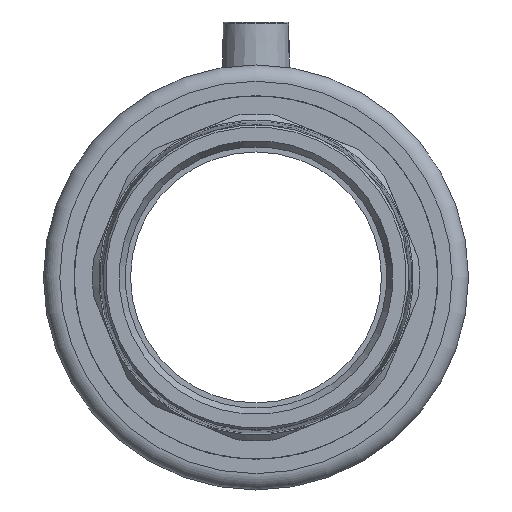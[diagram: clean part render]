
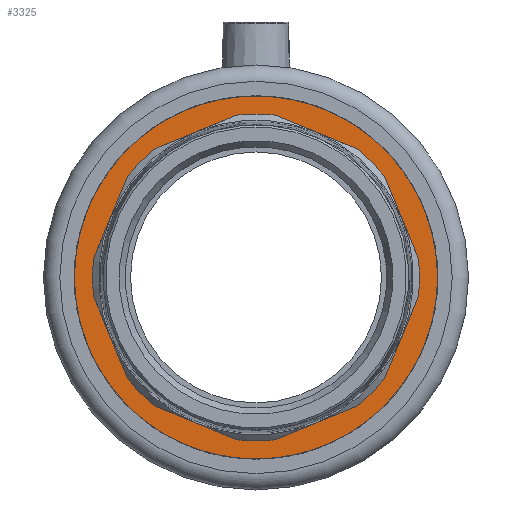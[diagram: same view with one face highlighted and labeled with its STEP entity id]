
A CAD part, left-side view. The second image highlights one B-rep face of the part: STEP entity #3325.
In plain terms, the highlighted planar face has unit normal (-1, 0, 0) as drawn and (0, 0, 1) by its records, which use the part's own axes.
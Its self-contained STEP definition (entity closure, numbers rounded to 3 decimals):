
#217=LINE('',#6724,#405);
#218=LINE('',#6725,#406);
#219=LINE('',#6729,#407);
#220=LINE('',#6730,#408);
#221=LINE('',#6731,#409);
#222=LINE('',#6732,#410);
#223=LINE('',#6733,#411);
#224=LINE('',#6734,#412);
#405=VECTOR('',#5249,1000.);
#406=VECTOR('',#5250,1000.);
#407=VECTOR('',#5253,1000.);
#408=VECTOR('',#5254,1000.);
#409=VECTOR('',#5255,1000.);
#410=VECTOR('',#5256,1000.);
#411=VECTOR('',#5257,1000.);
#412=VECTOR('',#5258,1000.);
#504=PLANE('',#4322);
#751=CIRCLE('',#4241,40.);
#754=CIRCLE('',#4246,40.);
#757=CIRCLE('',#4251,40.);
#760=CIRCLE('',#4256,40.);
#763=CIRCLE('',#4261,40.);
#766=CIRCLE('',#4266,40.);
#769=CIRCLE('',#4271,40.);
#808=CIRCLE('',#4323,44.5);
#809=CIRCLE('',#4324,40.);
#1525=ORIENTED_EDGE('',*,*,#2139,.T.);
#1526=ORIENTED_EDGE('',*,*,#2014,.F.);
#1527=ORIENTED_EDGE('',*,*,#2140,.F.);
#1528=ORIENTED_EDGE('',*,*,#2008,.F.);
#1529=ORIENTED_EDGE('',*,*,#2141,.F.);
#1530=ORIENTED_EDGE('',*,*,#2142,.F.);
#1531=ORIENTED_EDGE('',*,*,#2143,.F.);
#1532=ORIENTED_EDGE('',*,*,#2049,.F.);
#1533=ORIENTED_EDGE('',*,*,#2144,.F.);
#1534=ORIENTED_EDGE('',*,*,#2042,.F.);
#1535=ORIENTED_EDGE('',*,*,#2145,.F.);
#1536=ORIENTED_EDGE('',*,*,#2035,.F.);
#1537=ORIENTED_EDGE('',*,*,#2146,.F.);
#1538=ORIENTED_EDGE('',*,*,#2028,.F.);
#1539=ORIENTED_EDGE('',*,*,#2147,.F.);
#1540=ORIENTED_EDGE('',*,*,#2021,.F.);
#1541=ORIENTED_EDGE('',*,*,#2148,.F.);
#2008=EDGE_CURVE('',#2379,#2377,#751,.T.);
#2014=EDGE_CURVE('',#2384,#2385,#754,.T.);
#2021=EDGE_CURVE('',#2389,#2390,#757,.T.);
#2028=EDGE_CURVE('',#2394,#2395,#760,.T.);
#2035=EDGE_CURVE('',#2399,#2400,#763,.T.);
#2042=EDGE_CURVE('',#2404,#2405,#766,.T.);
#2049=EDGE_CURVE('',#2409,#2410,#769,.T.);
#2139=EDGE_CURVE('',#2482,#2482,#808,.T.);
#2140=EDGE_CURVE('',#2377,#2384,#217,.T.);
#2141=EDGE_CURVE('',#2483,#2379,#218,.T.);
#2142=EDGE_CURVE('',#2484,#2483,#809,.T.);
#2143=EDGE_CURVE('',#2410,#2484,#219,.T.);
#2144=EDGE_CURVE('',#2405,#2409,#220,.T.);
#2145=EDGE_CURVE('',#2400,#2404,#221,.T.);
#2146=EDGE_CURVE('',#2395,#2399,#222,.T.);
#2147=EDGE_CURVE('',#2390,#2394,#223,.T.);
#2148=EDGE_CURVE('',#2385,#2389,#224,.T.);
#2377=VERTEX_POINT('',#6417);
#2379=VERTEX_POINT('',#6421);
#2384=VERTEX_POINT('',#6440);
#2385=VERTEX_POINT('',#6442);
#2389=VERTEX_POINT('',#6460);
#2390=VERTEX_POINT('',#6462);
#2394=VERTEX_POINT('',#6480);
#2395=VERTEX_POINT('',#6482);
#2399=VERTEX_POINT('',#6500);
#2400=VERTEX_POINT('',#6502);
#2404=VERTEX_POINT('',#6520);
#2405=VERTEX_POINT('',#6522);
#2409=VERTEX_POINT('',#6540);
#2410=VERTEX_POINT('',#6542);
#2482=VERTEX_POINT('',#6723);
#2483=VERTEX_POINT('',#6726);
#2484=VERTEX_POINT('',#6728);
#2773=EDGE_LOOP('',(#1525));
#2774=EDGE_LOOP('',(#1526,#1527,#1528,#1529,#1530,#1531,#1532,#1533,#1534,
#1535,#1536,#1537,#1538,#1539,#1540,#1541));
#3069=FACE_BOUND('',#2773,.T.);
#3070=FACE_BOUND('',#2774,.T.);
#3325=ADVANCED_FACE('',(#3069,#3070),#504,.F.);
#4241=AXIS2_PLACEMENT_3D('',#6422,#5023,#5024);
#4246=AXIS2_PLACEMENT_3D('',#6441,#5034,#5035);
#4251=AXIS2_PLACEMENT_3D('',#6461,#5046,#5047);
#4256=AXIS2_PLACEMENT_3D('',#6481,#5058,#5059);
#4261=AXIS2_PLACEMENT_3D('',#6501,#5070,#5071);
#4266=AXIS2_PLACEMENT_3D('',#6521,#5082,#5083);
#4271=AXIS2_PLACEMENT_3D('',#6541,#5094,#5095);
#4322=AXIS2_PLACEMENT_3D('',#6721,#5245,#5246);
#4323=AXIS2_PLACEMENT_3D('',#6722,#5247,#5248);
#4324=AXIS2_PLACEMENT_3D('',#6727,#5251,#5252);
#5023=DIRECTION('',(0.,0.,1.));
#5024=DIRECTION('',(1.,0.,0.));
#5034=DIRECTION('',(0.,0.,1.));
#5035=DIRECTION('',(1.,0.,0.));
#5046=DIRECTION('',(0.,0.,1.));
#5047=DIRECTION('',(1.,0.,0.));
#5058=DIRECTION('',(0.,0.,1.));
#5059=DIRECTION('',(1.,0.,0.));
#5070=DIRECTION('',(0.,0.,1.));
#5071=DIRECTION('',(1.,0.,0.));
#5082=DIRECTION('',(0.,0.,1.));
#5083=DIRECTION('',(1.,0.,0.));
#5094=DIRECTION('',(0.,0.,1.));
#5095=DIRECTION('',(1.,0.,0.));
#5245=DIRECTION('',(0.,0.,-1.));
#5246=DIRECTION('',(-1.,0.,0.));
#5247=DIRECTION('',(0.,0.,1.));
#5248=DIRECTION('',(1.,0.,0.));
#5249=DIRECTION('',(0.924,-0.383,0.));
#5250=DIRECTION('',(0.383,-0.924,0.));
#5251=DIRECTION('',(0.,0.,1.));
#5252=DIRECTION('',(1.,0.,0.));
#5253=DIRECTION('',(-0.383,-0.924,0.));
#5254=DIRECTION('',(-0.924,-0.383,0.));
#5255=DIRECTION('',(-0.924,0.383,0.));
#5256=DIRECTION('',(-0.383,0.924,0.));
#5257=DIRECTION('',(0.383,0.924,0.));
#5258=DIRECTION('',(0.924,0.383,0.));
#6417=CARTESIAN_POINT('',(-24.759,-31.417,26.));
#6421=CARTESIAN_POINT('',(-31.417,-24.759,26.));
#6422=CARTESIAN_POINT('',(0.,0.,26.));
#6440=CARTESIAN_POINT('',(-4.708,-39.722,26.));
#6441=CARTESIAN_POINT('',(0.,0.,26.));
#6442=CARTESIAN_POINT('',(4.708,-39.722,26.));
#6460=CARTESIAN_POINT('',(24.759,-31.417,26.));
#6461=CARTESIAN_POINT('',(0.,0.,26.));
#6462=CARTESIAN_POINT('',(31.417,-24.759,26.));
#6480=CARTESIAN_POINT('',(39.722,-4.708,26.));
#6481=CARTESIAN_POINT('',(0.,0.,26.));
#6482=CARTESIAN_POINT('',(39.722,4.708,26.));
#6500=CARTESIAN_POINT('',(31.417,24.759,26.));
#6501=CARTESIAN_POINT('',(0.,0.,26.));
#6502=CARTESIAN_POINT('',(24.759,31.417,26.));
#6520=CARTESIAN_POINT('',(4.708,39.722,26.));
#6521=CARTESIAN_POINT('',(0.,0.,26.));
#6522=CARTESIAN_POINT('',(-4.708,39.722,26.));
#6540=CARTESIAN_POINT('',(-24.759,31.417,26.));
#6541=CARTESIAN_POINT('',(0.,0.,26.));
#6542=CARTESIAN_POINT('',(-31.417,24.759,26.));
#6721=CARTESIAN_POINT('',(44.5,0.,26.));
#6722=CARTESIAN_POINT('',(0.,0.,26.));
#6723=CARTESIAN_POINT('',(44.5,0.,26.));
#6724=CARTESIAN_POINT('',(-24.759,-31.417,26.));
#6725=CARTESIAN_POINT('',(-39.722,-4.708,26.));
#6726=CARTESIAN_POINT('',(-39.722,-4.708,26.));
#6727=CARTESIAN_POINT('',(0.,0.,26.));
#6728=CARTESIAN_POINT('',(-39.722,4.708,26.));
#6729=CARTESIAN_POINT('',(-31.417,24.759,26.));
#6730=CARTESIAN_POINT('',(-4.708,39.722,26.));
#6731=CARTESIAN_POINT('',(24.759,31.417,26.));
#6732=CARTESIAN_POINT('',(39.722,4.708,26.));
#6733=CARTESIAN_POINT('',(31.417,-24.759,26.));
#6734=CARTESIAN_POINT('',(4.708,-39.722,26.));
